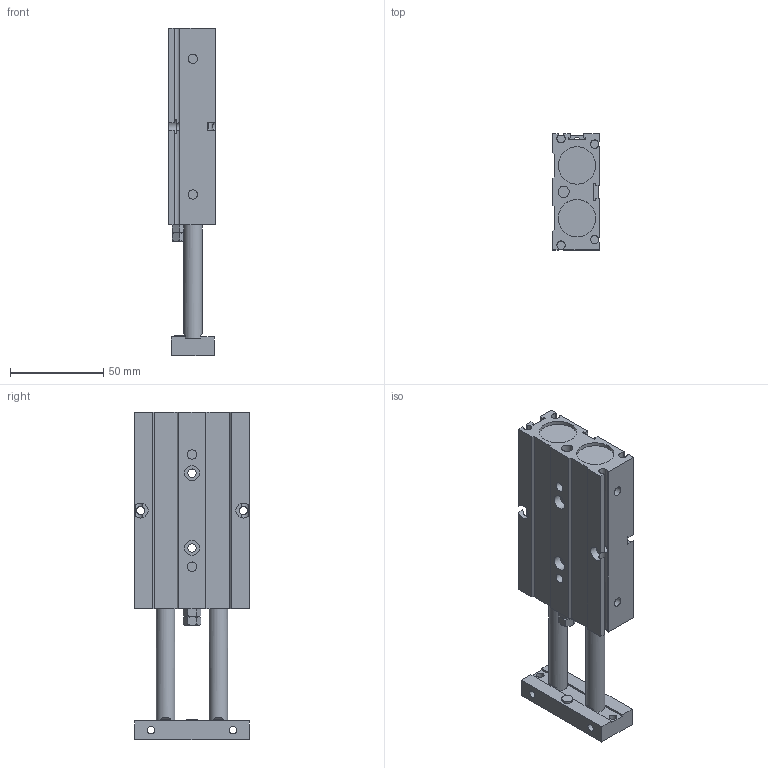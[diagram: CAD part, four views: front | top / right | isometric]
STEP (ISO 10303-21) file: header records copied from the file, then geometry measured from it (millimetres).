
FILE_DESCRIPTION((''),'2;1');
FILE_NAME('I:\3D電子目錄\氣缸\TD\TD20\TD20\TD20x50.stp','2007-08-06T09:47:08',('Administrator'),(''),'Autodesk Inventor 2008','Autodesk Inventor 2008','');
FILE_SCHEMA(('AUTOMOTIVE_DESIGN { 1 0 10303 214 1 1 1 1 }'));
Length unit declared in the file: millimetre
Products named in the file (1): TD20X50
Bounding box: 25 x 62 x 175 mm (x, y, z)
Volume: 164688.3 mm3; surface area: 39306.9 mm2
Topology: 1 solids, 3 shells, 197 faces, 503 edges, 329 vertices
Faces by surface type: plane 136, cylinder 48, cone 7, bspline 4, torus 2
Full cylindrical faces by diameter (mm): 4 x4, 4.5 x4, 5 x4, 6 x2, 7 x2, 8 x6, 9 x2, 10 x2, 20 x4
Entity records: 6108 total; most frequent: CARTESIAN_POINT 1453, DIRECTION 927, ORIENTED_EDGE 916, EDGE_CURVE 458, VERTEX_POINT 323, AXIS2_PLACEMENT_3D 310, VECTOR 307, LINE 307
